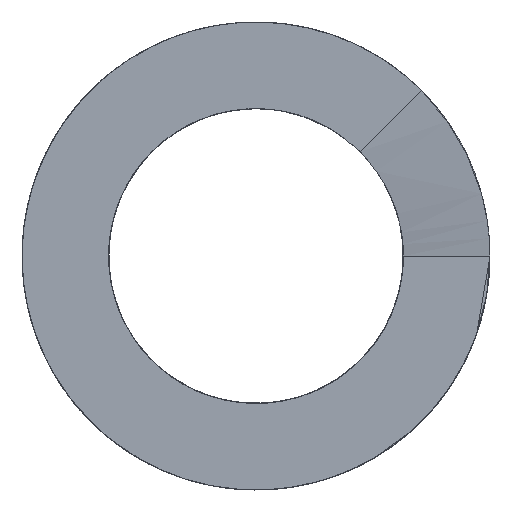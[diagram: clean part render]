
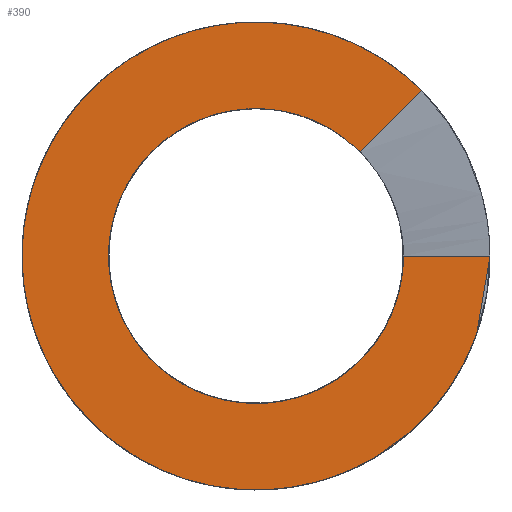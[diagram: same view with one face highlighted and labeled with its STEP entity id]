
A CAD part, front view. The second image highlights one B-rep face of the part: STEP entity #390.
In plain terms, the highlighted planar face has unit normal (0, -1, 0).
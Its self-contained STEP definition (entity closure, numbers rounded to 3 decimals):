
#36=LINE('',#2858,#44);
#44=VECTOR('',#461,10.);
#74=B_SPLINE_CURVE_WITH_KNOTS('',3,(#2133,#2134,#2135,#2136,#2137,#2138,
#2139,#2140,#2141,#2142,#2143,#2144,#2145,#2146,#2147,#2148,#2149,#2150,
#2151,#2152,#2153,#2154,#2155,#2156,#2157,#2158,#2159,#2160,#2161,#2162,
#2163,#2164,#2165,#2166,#2167,#2168,#2169,#2170,#2171,#2172),
 .UNSPECIFIED.,.F.,.F.,(4,2,2,2,2,2,2,2,2,2,2,2,2,2,2,2,2,2,2,4),(-10.803,
-10.178,-9.554,-9.173,-8.486,
-7.871,-7.328,-6.872,-6.491,
-6.382,-6.294,-6.125,-5.36,
-4.594,-3.828,-3.063,-2.297,
-1.531,-0.766,0.),.UNSPECIFIED.);
#83=B_SPLINE_CURVE_WITH_KNOTS('',3,(#2746,#2747,#2748,#2749,#2750,#2751,
#2752,#2753,#2754,#2755,#2756,#2757,#2758,#2759,#2760,#2761,#2762,#2763,
#2764,#2765,#2766,#2767,#2768,#2769,#2770,#2771,#2772,#2773,#2774,#2775,
#2776,#2777,#2778,#2779,#2780,#2781,#2782,#2783,#2784,#2785,#2786,#2787),
 .UNSPECIFIED.,.F.,.F.,(4,2,2,2,2,2,2,2,2,2,2,2,2,2,2,2,2,2,2,2,4),(-17.144,
-16.006,-14.868,-13.654,-12.439,
-11.224,-10.009,-8.794,-7.579,
-7.32,-7.16,-7.021,-6.852,
-6.632,-6.368,-5.36,-4.549,-3.659,
-2.43,-1.215,0.),.UNSPECIFIED.);
#89=B_SPLINE_CURVE_WITH_KNOTS('',3,(#2852,#2853,#2854,#2855,#2856,#2857),
 .UNSPECIFIED.,.F.,.F.,(4,2,4),(-1.15,-0.575,0.),.UNSPECIFIED.);
#114=FACE_OUTER_BOUND('',#140,.T.);
#140=EDGE_LOOP('',(#335,#336,#337,#338));
#171=VERTEX_POINT('',#1767);
#178=VERTEX_POINT('',#2127);
#181=VERTEX_POINT('',#2306);
#186=VERTEX_POINT('',#2745);
#224=EDGE_CURVE('',#178,#171,#74,.T.);
#235=EDGE_CURVE('',#181,#186,#83,.T.);
#242=EDGE_CURVE('',#186,#178,#89,.T.);
#243=EDGE_CURVE('',#171,#181,#36,.T.);
#335=ORIENTED_EDGE('',*,*,#242,.F.);
#336=ORIENTED_EDGE('',*,*,#235,.F.);
#337=ORIENTED_EDGE('',*,*,#243,.F.);
#338=ORIENTED_EDGE('',*,*,#224,.F.);
#372=PLANE('',#429);
#390=ADVANCED_FACE('',(#114),#372,.F.);
#429=AXIS2_PLACEMENT_3D('',#2851,#459,#460);
#459=DIRECTION('center_axis',(0.,1.,0.));
#460=DIRECTION('ref_axis',(0.,0.,1.));
#461=DIRECTION('',(1.,0.,0.));
#1767=CARTESIAN_POINT('',(19.6,0.,0.));
#2127=CARTESIAN_POINT('',(13.859,0.,13.859));
#2133=CARTESIAN_POINT('Ctrl Pts',(13.859,0.,
13.859));
#2134=CARTESIAN_POINT('Ctrl Pts',(12.388,0.,
15.331));
#2135=CARTESIAN_POINT('Ctrl Pts',(10.692,0.,
16.558));
#2136=CARTESIAN_POINT('Ctrl Pts',(6.977,0.,
18.434));
#2137=CARTESIAN_POINT('Ctrl Pts',(4.982,0.,
19.07));
#2138=CARTESIAN_POINT('Ctrl Pts',(1.669,0.,
19.57));
#2139=CARTESIAN_POINT('Ctrl Pts',(0.397,0.,
19.637));
#2140=CARTESIAN_POINT('Ctrl Pts',(-3.161,0.,
19.479));
#2141=CARTESIAN_POINT('Ctrl Pts',(-5.415,0.,
18.976));
#2142=CARTESIAN_POINT('Ctrl Pts',(-9.422,0.,
17.308));
#2143=CARTESIAN_POINT('Ctrl Pts',(-11.18,0.,
16.229));
#2144=CARTESIAN_POINT('Ctrl Pts',(-14.113,0.,
13.721));
#2145=CARTESIAN_POINT('Ctrl Pts',(-15.318,0.,
12.36));
#2146=CARTESIAN_POINT('Ctrl Pts',(-17.161,0.,
9.59));
#2147=CARTESIAN_POINT('Ctrl Pts',(-17.852,0.,
8.232));
#2148=CARTESIAN_POINT('Ctrl Pts',(-18.821,0.,
5.616));
#2149=CARTESIAN_POINT('Ctrl Pts',(-19.146,0.,
4.383));
#2150=CARTESIAN_POINT('Ctrl Pts',(-19.407,0.,
2.768));
#2151=CARTESIAN_POINT('Ctrl Pts',(-19.455,0.,
2.407));
#2152=CARTESIAN_POINT('Ctrl Pts',(-19.524,0.,
1.754));
#2153=CARTESIAN_POINT('Ctrl Pts',(-19.547,0.,
1.464));
#2154=CARTESIAN_POINT('Ctrl Pts',(-19.599,0.,
0.611));
#2155=CARTESIAN_POINT('Ctrl Pts',(-19.608,0.,
0.048));
#2156=CARTESIAN_POINT('Ctrl Pts',(-19.526,0.,
-3.066));
#2157=CARTESIAN_POINT('Ctrl Pts',(-18.962,0.,
-5.58));
#2158=CARTESIAN_POINT('Ctrl Pts',(-16.9,0.,
-10.249));
#2159=CARTESIAN_POINT('Ctrl Pts',(-15.424,0.,
-12.361));
#2160=CARTESIAN_POINT('Ctrl Pts',(-11.744,0.,
-15.898));
#2161=CARTESIAN_POINT('Ctrl Pts',(-9.576,0.,
-17.291));
#2162=CARTESIAN_POINT('Ctrl Pts',(-4.829,0.,
-19.167));
#2163=CARTESIAN_POINT('Ctrl Pts',(-2.295,0.,
-19.632));
#2164=CARTESIAN_POINT('Ctrl Pts',(2.809,0.,
-19.565));
#2165=CARTESIAN_POINT('Ctrl Pts',(5.33,0.,
-19.033));
#2166=CARTESIAN_POINT('Ctrl Pts',(10.027,0.,
-17.033));
#2167=CARTESIAN_POINT('Ctrl Pts',(12.157,0.,
-15.585));
#2168=CARTESIAN_POINT('Ctrl Pts',(15.743,0.,
-11.952));
#2169=CARTESIAN_POINT('Ctrl Pts',(17.164,0.,
-9.802));
#2170=CARTESIAN_POINT('Ctrl Pts',(19.101,0.,
-5.08));
#2171=CARTESIAN_POINT('Ctrl Pts',(19.6,0.,-2.552));
#2172=CARTESIAN_POINT('Ctrl Pts',(19.6,0.,0.));
#2306=CARTESIAN_POINT('',(31.1,0.,0.));
#2745=CARTESIAN_POINT('',(21.991,0.,21.991));
#2746=CARTESIAN_POINT('Ctrl Pts',(31.1,0.,0.));
#2747=CARTESIAN_POINT('Ctrl Pts',(31.1,0.,-3.792));
#2748=CARTESIAN_POINT('Ctrl Pts',(30.406,0.,-7.553));
#2749=CARTESIAN_POINT('Ctrl Pts',(27.701,0.,-14.638));
#2750=CARTESIAN_POINT('Ctrl Pts',(25.711,0.,-17.903));
#2751=CARTESIAN_POINT('Ctrl Pts',(20.484,0.,-23.749));
#2752=CARTESIAN_POINT('Ctrl Pts',(17.221,0.,-26.212));
#2753=CARTESIAN_POINT('Ctrl Pts',(9.934,0.,-29.748));
#2754=CARTESIAN_POINT('Ctrl Pts',(5.98,0.,-30.787));
#2755=CARTESIAN_POINT('Ctrl Pts',(-2.103,0.,-31.292));
#2756=CARTESIAN_POINT('Ctrl Pts',(-6.156,0.,-30.752));
#2757=CARTESIAN_POINT('Ctrl Pts',(-13.826,0.,-28.151));
#2758=CARTESIAN_POINT('Ctrl Pts',(-17.37,0.,-26.113));
#2759=CARTESIAN_POINT('Ctrl Pts',(-23.478,0.,-20.794));
#2760=CARTESIAN_POINT('Ctrl Pts',(-25.984,0.,-17.563));
#2761=CARTESIAN_POINT('Ctrl Pts',(-29.615,0.,-10.324));
#2762=CARTESIAN_POINT('Ctrl Pts',(-30.706,0.,-6.384));
#2763=CARTESIAN_POINT('Ctrl Pts',(-31.077,0.,-1.483));
#2764=CARTESIAN_POINT('Ctrl Pts',(-31.106,0.,
-0.618));
#2765=CARTESIAN_POINT('Ctrl Pts',(-31.095,0.,
0.78));
#2766=CARTESIAN_POINT('Ctrl Pts',(-31.077,0.,
1.313));
#2767=CARTESIAN_POINT('Ctrl Pts',(-31.018,0.,
2.307));
#2768=CARTESIAN_POINT('Ctrl Pts',(-30.98,0.,
2.77));
#2769=CARTESIAN_POINT('Ctrl Pts',(-30.873,0.,
3.791));
#2770=CARTESIAN_POINT('Ctrl Pts',(-30.8,0.,
4.348));
#2771=CARTESIAN_POINT('Ctrl Pts',(-30.595,0.,
5.628));
#2772=CARTESIAN_POINT('Ctrl Pts',(-30.454,0.,
6.349));
#2773=CARTESIAN_POINT('Ctrl Pts',(-30.088,0.,
7.918));
#2774=CARTESIAN_POINT('Ctrl Pts',(-29.852,0.,
8.765));
#2775=CARTESIAN_POINT('Ctrl Pts',(-28.544,0.,
12.795));
#2776=CARTESIAN_POINT('Ctrl Pts',(-26.996,0.,
15.802));
#2777=CARTESIAN_POINT('Ctrl Pts',(-23.389,0.,
20.675));
#2778=CARTESIAN_POINT('Ctrl Pts',(-21.504,0.,
22.629));
#2779=CARTESIAN_POINT('Ctrl Pts',(-17.07,0.,
26.166));
#2780=CARTESIAN_POINT('Ctrl Pts',(-14.496,0.,
27.675));
#2781=CARTESIAN_POINT('Ctrl Pts',(-7.955,0.,
30.343));
#2782=CARTESIAN_POINT('Ctrl Pts',(-3.893,0.,
31.126));
#2783=CARTESIAN_POINT('Ctrl Pts',(4.254,0.,
31.073));
#2784=CARTESIAN_POINT('Ctrl Pts',(8.259,0.,
30.255));
#2785=CARTESIAN_POINT('Ctrl Pts',(15.732,0.,
27.131));
#2786=CARTESIAN_POINT('Ctrl Pts',(19.127,0.,
24.855));
#2787=CARTESIAN_POINT('Ctrl Pts',(21.991,0.,
21.991));
#2851=CARTESIAN_POINT('Origin',(0.,0.,0.));
#2852=CARTESIAN_POINT('Ctrl Pts',(21.991,0.,21.991));
#2853=CARTESIAN_POINT('Ctrl Pts',(20.636,0.,
20.636));
#2854=CARTESIAN_POINT('Ctrl Pts',(19.28,0.,
19.28));
#2855=CARTESIAN_POINT('Ctrl Pts',(16.57,0.,
16.57));
#2856=CARTESIAN_POINT('Ctrl Pts',(15.215,0.,
15.215));
#2857=CARTESIAN_POINT('Ctrl Pts',(13.859,0.,
13.859));
#2858=CARTESIAN_POINT('',(12.675,0.,0.));
